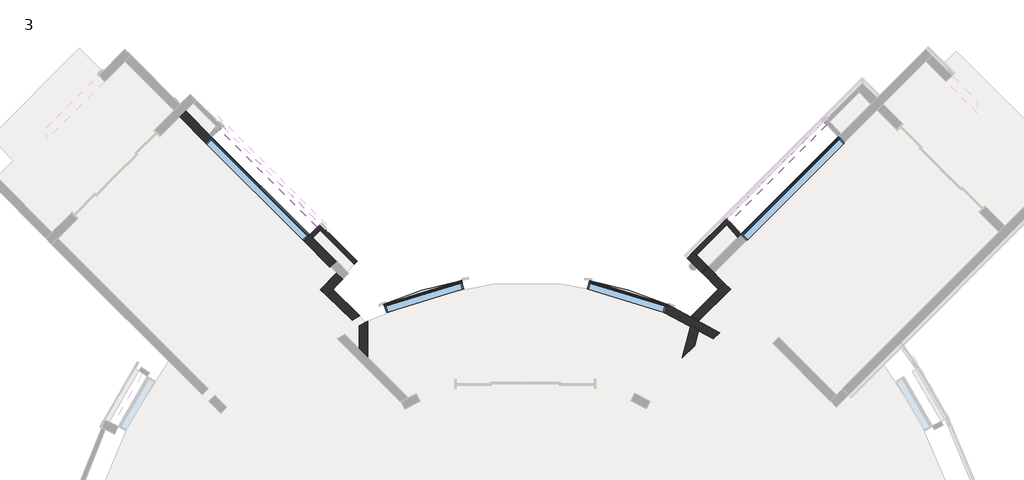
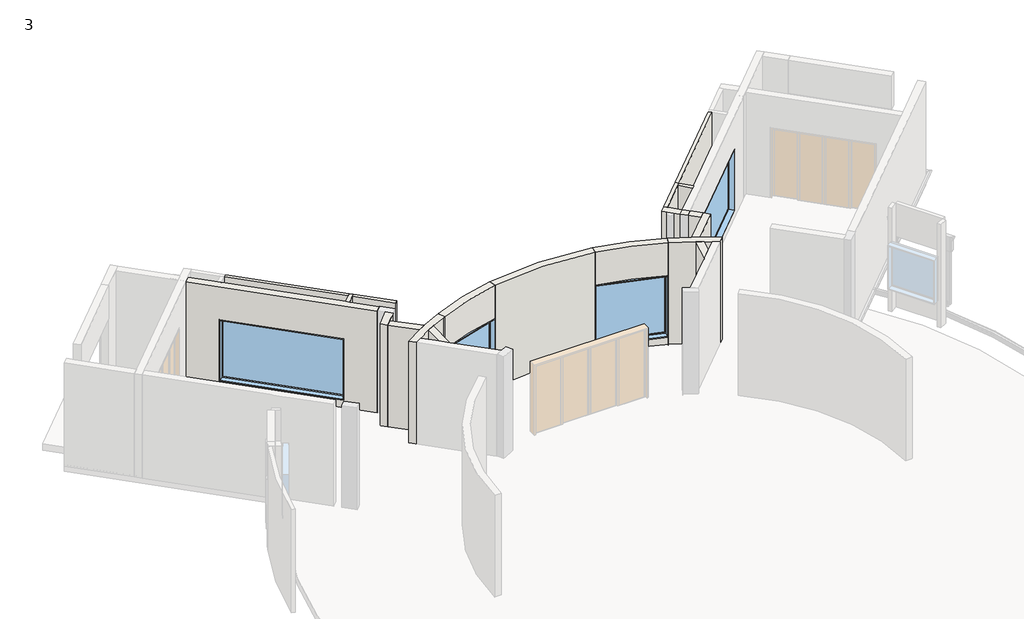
# One storey, part 4 of 12: 19 walls, 4 windows.
"""IFC4 building model written with IfcOpenShell, lengths in millimetres."""

from ifc_helpers import new_model, si_unit, point, frame, frame_2d, origin, place, context, project, spatial, polyline, circle_curve, trimmed, segment, composite_curve, outline, extrude, faceted_brep, transform, mapped, element, save
from ifc_brep_helpers import plane_surface, cylinder_surface, revolved_surface, advanced_brep
from components import fixed_w5_01558c50, fixed_w6f_92124ed6, fixed_w6f_ce856e14

model = new_model("IFC4")

# Units and contexts
model_context = context("Model", 3, world=origin())
ifc_project = project(units=[si_unit("LENGTHUNIT", "METRE", prefix="MILLI")], contexts=[model_context])

# Site, building, storey
site = spatial("IfcSite", under=ifc_project)
building = spatial("IfcBuilding", under=site)
storey = spatial("IfcBuildingStorey", under=building, Name="3", Elevation=3581.4)

# Walls
placement = place(None, origin())
element("IfcWall", 1, ObjectType="115mm BK WALL", at=placement, inside=storey, context=model_context, shape_type="Brep", body=[
    faceted_brep([(-14022.3832452, 10884.9101486, 3581.4), (-13822.1309132, 11085.1624805, 3581.4), (-13741.3086082, 11165.9847856, 3581.4), (-13741.3086082, 11165.9847856, 3733.8), (-13741.3086082, 11165.9847856, 3854.45), (-13741.3086082, 11165.9847856, 6019.8), (-13742.2943938, 11164.999, 6019.8), (-13742.2943938, 11164.999, 6515.1), (-13741.3086082, 11165.9847856, 6515.1), (-13741.3086082, 11165.9847856, 7162.8), (-13822.1309132, 11085.1624805, 7162.8), (-14022.3832452, 10884.9101486, 7162.8), (-13822.1309132, 11246.8070907, 3581.4), (-14103.2055503, 10965.7324537, 3581.4), (-14103.2055503, 10965.7324537, 3886.2), (-14103.2055503, 10965.7324537, 6019.8), (-14103.2055503, 10965.7324537, 7162.8), (-13903.939004, 11164.999, 7162.8), (-13823.1166989, 11245.8213051, 7162.8), (-13822.1309132, 11246.8070907, 7162.8), (-13822.1309132, 11246.8070907, 6515.1), (-13823.1166989, 11245.8213051, 6515.1), (-13823.1166989, 11245.8213051, 6019.8), (-13822.1309132, 11246.8070907, 6019.8), (-13822.1309132, 11246.8070907, 3854.45), (-13822.1309132, 11246.8070907, 3733.8)], [[[0, 1, 2, 3, 4, 5, 6, 7, 8, 9, 10, 11]], [[12, 13, 14, 15, 16, 17, 18, 19, 20, 21, 22, 23, 24, 25]], [[2, 1, 0, 13, 12]], [[11, 10, 9, 19, 18, 17, 16]], [[2, 12, 25, 24, 23, 5, 4, 3]], [[19, 9, 8, 20]], [[0, 11, 16, 15, 14, 13]], [[22, 6, 5, 23]], [[6, 22, 21, 7]], [[7, 21, 20, 8]]]),
])
element("IfcWall", 2, ObjectType="115mm BK WALL", at=placement, inside=storey, context=model_context, shape_type="AdvancedBrep", body=[
    advanced_brep(
    [(-13822.1309132, 11085.1624805, 3581.4), (-12917.0265845, 10180.0581518, 3581.4), (-12917.0265845, 10180.0581518, 7162.8), (-13822.1309132, 11085.1624805, 7162.8), (-12836.2042794, 10260.8804569, 3581.4), (-13741.3086082, 11165.9847856, 3581.4), (-13741.3086082, 11165.9847856, 3733.8), (-13741.3086082, 11165.9847856, 3835.4), (-13741.3086082, 11165.9847856, 3854.45), (-13741.3086082, 11165.9847856, 6019.8), (-13677.4610296, 11102.1372071, 6019.8), (-13635.5302821, 11060.2064596, 6019.8), (-13635.5302821, 11060.2064596, 6064.25), (-13626.550026, 11051.2262034, 6064.25), (-13626.550026, 11051.2262034, 6419.85), (-13615.5850225, 11040.2611999, 6419.85), (-13615.5850225, 11040.2611999, 6438.9), (-13615.5850225, 11040.2611999, 6489.7), (-13602.1146383, 11026.7908158, 6489.7), (-13602.1146383, 11026.7908158, 6515.1), (-13677.4610296, 11102.1372071, 6515.1), (-13741.3086082, 11165.9847856, 6515.1), (-13741.3086082, 11165.9847856, 7162.8), (-12836.2042794, 10260.8804569, 7162.8), (-12836.2042794, 10260.8804569, 3854.45), (-12836.2042794, 10260.8804569, 3733.8), (-13742.2943938, 11164.999, 6515.1), (-13742.2943938, 11164.999, 6019.8), (-13679.432601, 11102.1372071, 6019.8), (-13679.432601, 11102.1372071, 6515.1), (-13603.1004239, 11025.8050301, 6515.1), (-13603.1004239, 11025.8050301, 6489.7), (-13616.5708081, 11039.2754143, 6489.7), (-13616.5708081, 11039.2754143, 6438.9), (-13616.5708081, 11039.2754143, 6419.85), (-13627.5358116, 11050.2404178, 6419.85), (-13627.5358116, 11050.2404178, 6064.25), (-13636.5160677, 11059.2206739, 6064.25), (-13636.5160677, 11059.2206739, 6019.8)],
    [
        (0, 1),
        (1, 2),
        (2, 3),
        (3, 0),
        (4, 5),
        (5, 6),
        (6, 7),
        (7, 8),
        (8, 9),
        (9, 10),
        (10, 11),
        (11, 12),
        (12, 13),
        (13, 14),
        (14, 15),
        (15, 16),
        (16, 17, circle_curve(frame((-13624.3729039, 11049.0490814, 6464.3), z_axis=(-0.7071067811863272, -0.7071067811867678, 0.0), x_axis=(0.7071067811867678, -0.7071067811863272, 0.0)), 28.2774419)),
        (17, 18),
        (18, 19),
        (19, 20),
        (20, 21),
        (21, 22),
        (22, 23),
        (23, 24),
        (24, 25),
        (25, 4),
        (0, 5),
        (4, 1),
        (23, 2),
        (22, 3),
        (21, 26),
        (26, 27),
        (27, 9),
        (28, 10),
        (27, 28),
        (29, 28),
        (26, 29),
        (20, 29),
        (29, 30),
        (30, 31),
        (31, 32),
        (32, 33, circle_curve(frame((-13625.3586896, 11048.0632958, 6464.3), z_axis=(0.7071067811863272, 0.7071067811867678, 0.0), x_axis=(0.7071067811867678, -0.7071067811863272, 0.0)), 28.2774419)),
        (33, 34),
        (34, 35),
        (35, 36),
        (36, 37),
        (37, 38),
        (38, 28),
        (30, 19),
        (18, 31),
        (17, 32),
        (16, 33),
        (15, 34),
        (14, 35),
        (13, 36),
        (12, 37),
        (11, 38),
    ],
    [
        plane_surface(frame((-13862.5420658, 11125.5736331, 3581.4), z_axis=(-0.7071067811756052, -0.7071067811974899, 0.0), x_axis=(0.7071067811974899, -0.7071067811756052, 0.0))),
        plane_surface(frame((-13781.7197607, 11206.3959382, 3581.4), z_axis=(0.7071067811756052, 0.7071067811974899, 0.0), x_axis=(-0.7071067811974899, 0.7071067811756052, 0.0))),
        plane_surface(frame((-13862.5420658, 11125.5736331, 3581.4), z_axis=(0.0, 0.0, -1.0000000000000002), x_axis=(0.7071067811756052, 0.7071067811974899, 0.0))),
        plane_surface(frame((-12917.0265845, 10180.0581518, 3581.4), z_axis=(0.7071067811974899, -0.7071067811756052, 0.0), x_axis=(0.7071067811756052, 0.7071067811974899, 0.0))),
        plane_surface(frame((-12917.0265845, 10180.0581518, 7162.8), z_axis=(0.0, 0.0, 1.0000000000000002), x_axis=(0.7071067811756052, 0.7071067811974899, 0.0))),
        plane_surface(frame((-14022.3832452, 10884.9101486, 3581.4), z_axis=(-0.7071067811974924, 0.7071067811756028, 0.0), x_axis=(0.7071067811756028, 0.7071067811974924, 0.0))),
        plane_surface(frame((-16535.1540475, 14043.6917201, 6019.8), z_axis=(0.0, 0.0, 1.0), x_axis=(0.7071067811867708, -0.7071067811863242, 0.0))),
        plane_surface(frame((-16535.1540475, 13957.8586536, 6019.8), z_axis=(0.707106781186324, 0.7071067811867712, 0.0), x_axis=(0.7071067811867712, -0.707106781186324, 0.0))),
        plane_surface(frame((-16535.1540475, 13957.8586536, 6515.1), z_axis=(0.0, 0.0, -1.0000000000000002), x_axis=(0.7071067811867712, -0.707106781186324, 0.0))),
        plane_surface(frame((-16449.8416143, 13872.5462205, 6019.8), z_axis=(0.7071067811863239, 0.7071067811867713, 0.0), x_axis=(-0.7071067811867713, 0.7071067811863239, 0.0))),
        plane_surface(frame((-13526.7682469, 11102.1372071, 6515.1), z_axis=(-0.7071067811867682, 0.7071067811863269, 0.0), x_axis=(-0.7071067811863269, -0.7071067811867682, 0.0))),
        plane_surface(frame((-13526.7682469, 11102.1372071, 6489.7), z_axis=(0.0, 0.0, 1.0), x_axis=(-0.7071067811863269, -0.7071067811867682, 0.0))),
        revolved_surface(polyline([(-13604.377733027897, 11029.053910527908, 6464.3), (-13605.3635186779, 11028.068124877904, 6464.3)]), (-13625.3586896, 11048.0632958, 6464.3), (0.7071067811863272, 0.7071067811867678, 0.0)),
        plane_surface(frame((-13553.7090153, 11102.1372071, 6438.9), z_axis=(-0.707106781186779, 0.7071067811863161, 0.0), x_axis=(-0.7071067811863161, -0.707106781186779, 0.0))),
        plane_surface(frame((-13553.7090153, 11102.1372071, 6419.85), z_axis=(0.0, 0.0, 1.0), x_axis=(-0.7071067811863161, -0.707106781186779, 0.0))),
        plane_surface(frame((-13575.6390223, 11102.1372071, 6419.85), z_axis=(-0.7071067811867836, 0.7071067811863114, 0.0), x_axis=(-0.7071067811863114, -0.7071067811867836, 0.0))),
        plane_surface(frame((-13575.6390223, 11102.1372071, 6064.25), z_axis=(0.0, 0.0, 1.0), x_axis=(-0.7071067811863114, -0.7071067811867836, 0.0))),
        plane_surface(frame((-13593.5995345, 11102.1372071, 6064.25), z_axis=(-0.7071067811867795, 0.7071067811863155, 0.0), x_axis=(-0.7071067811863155, -0.7071067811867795, 0.0))),
        plane_surface(frame((-13593.5995345, 11102.1372071, 6019.8), z_axis=(0.0, 0.0, 1.0), x_axis=(-0.7071067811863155, -0.7071067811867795, 0.0))),
        plane_surface(frame((-13679.432601, 11102.1372071, 6515.1), z_axis=(0.0, 0.0, -1.0), x_axis=(-0.7071067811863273, -0.7071067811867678, 0.0))),
    ],
    [
        (0, [[1, 2, 3, 4]]),
        (1, [[5, 6, 7, 8, 9, 10, 11, 12, 13, 14, 15, 16, 17, 18, 19, 20, 21, 22, 23, 24, 25, 26]]),
        (2, [[-1, 27, -5, 28]]),
        (3, [[-2, -28, -26, -25, -24, 29]]),
        (4, [[-3, -29, -23, 30]]),
        (5, [[-27, -4, -30, -22, 31, 32, 33, -9, -8, -7, -6]]),
        (6, [[34, -10, -33, 35]]),
        (7, [[36, -35, -32, 37]]),
        (8, [[38, -37, -31, -21]]),
        (9, [[-36, 39, 40, 41, 42, 43, 44, 45, 46, 47, 48]]),
        (10, [[-40, 49, -19, 50]]),
        (11, [[-41, -50, -18, 51]]),
        (12, [[-42, -51, -17, 52]]),
        (13, [[-43, -52, -16, 53]]),
        (14, [[-44, -53, -15, 54]]),
        (15, [[-45, -54, -14, 55]]),
        (16, [[-46, -55, -13, 56]]),
        (17, [[-47, -56, -12, 57]]),
        (18, [[-48, -57, -11, -34]]),
        (19, [[-39, -38, -20, -49]]),
    ],
),
])
element("IfcWall", 3, ObjectType="115mm BK WALL", at=placement, inside=storey, context=model_context, shape_type="Brep", body=[
    faceted_brep([(-3856.761253, 10426.8778601, 3581.4), (-3055.9444798, 11227.6946332, 3581.4), (-2975.0112586, 11308.6278545, 3581.4), (-2975.0112586, 11308.6278545, 6019.8), (-2975.0112586, 11308.6278545, 7162.8), (-3055.9444798, 11227.6946332, 7162.8), (-3856.761253, 10426.8778601, 7162.8), (-3051.5978461, 11393.6858771, 3581.4), (-3937.5835581, 10507.7001651, 3581.4), (-3937.5835581, 10507.7001651, 3733.8), (-3937.5835581, 10507.7001651, 3886.2), (-3937.5835581, 10507.7001651, 7162.8), (-3051.5978461, 11393.6858771, 7162.8), (-3051.5978461, 11393.6858771, 6515.1), (-3051.5978461, 11393.6858771, 6019.8), (-3051.5978461, 11393.6858771, 3886.2), (-3051.5978461, 11393.6858771, 3733.8)], [[[0, 1, 2, 3, 4, 5, 6]], [[7, 8, 9, 10, 11, 12, 13, 14, 15, 16]], [[2, 1, 0, 8, 7]], [[6, 5, 4, 12, 11]], [[2, 7, 16, 15, 14, 13, 12, 4, 3]], [[0, 6, 11, 10, 9, 8]]]),
])
element("IfcWall", 4, ObjectType="115mm BK WALL", at=placement, inside=storey, context=model_context, shape_type="SweptSolid", body=[
    extrude(outline(polyline([(-2761.9122416, 10901.1387497), (-3055.9444798, 11227.6946332), (-2975.0112586, 11308.6278545), (-2680.9790204, 10982.071971), (-2761.9122416, 10901.1387497)])), frame((0.0, 0.0, 3581.4), z_axis=(0.0, 0.0, 1.0), x_axis=(1.0, 0.0, 0.0)), (0.0, 0.0, 1.0), 3581.4),
])
element("IfcWall", 5, ObjectType="115mm BK WALL", at=placement, inside=storey, context=model_context, shape_type="Brep", body=[
    faceted_brep([(-2975.0112586, 11308.6278545, 6019.8), (-409.305952, 13874.333161, 6019.8), (-409.305952, 13874.333161, 7162.8), (-2975.0112586, 11308.6278545, 7162.8), (-490.1282571, 13955.1554661, 6019.8), (-3051.5978461, 11393.6858771, 6019.8), (-3051.5978461, 11393.6858771, 6515.1), (-3051.5978461, 11393.6858771, 7162.8), (-490.1282571, 13955.1554661, 7162.8), (-490.1282571, 13955.1554661, 6515.1)], [[[0, 1, 2, 3]], [[4, 5, 6, 7, 8, 9]], [[1, 0, 5, 4]], [[3, 2, 8, 7]], [[2, 1, 4, 9, 8]], [[0, 3, 7, 6, 5]]]),
])
element("IfcWall", 6, ObjectType="115mm BK WALL", at=placement, inside=storey, context=model_context, shape_type="Brep", body=[
    faceted_brep([(-16490.2527668, 13751.3127628, 6019.8), (-13903.939004, 11164.999, 6019.8), (-13903.939004, 11164.999, 7162.8), (-16490.2527668, 13751.3127628, 7162.8), (-13823.1166989, 11245.8213051, 6019.8), (-16409.4304618, 13832.1350679, 6019.8), (-16409.4304618, 13832.1350679, 6515.1), (-16409.4304618, 13832.1350679, 7162.8), (-13823.1166989, 11245.8213051, 7162.8), (-13823.1166989, 11245.8213051, 6515.1)], [[[0, 1, 2, 3]], [[4, 5, 6, 7, 8, 9]], [[1, 0, 5, 4]], [[3, 2, 8, 7]], [[0, 3, 7, 6, 5]], [[2, 1, 4, 9, 8]]]),
])
element("IfcWall", 7, ObjectType="230mm BK WALL", at=placement, inside=storey, context=model_context, shape_type="Brep", body=[
    faceted_brep([(-17549.0284891, 14088.2661722, 3581.4), (-13564.0170724, 10103.2547555, 3581.4), (-13564.0170724, 10103.2547555, 7162.8), (-17549.0284891, 14088.2661722, 7162.8), (-14264.8501604, 10804.0878435, 6019.8), (-14264.8501604, 10804.0878435, 3886.2), (-16851.1639233, 13390.4016064, 3886.2), (-16851.1639233, 13390.4016064, 6019.8), (-17387.383879, 14249.9107824, 3581.4), (-17387.383879, 14249.9107824, 7162.8), (-16770.3416182, 13632.8685217, 7162.8), (-16689.5193131, 13552.0462166, 7162.8), (-14103.2055503, 10965.7324537, 7162.8), (-14022.3832452, 10884.9101486, 7162.8), (-13402.3724623, 10264.8993657, 7162.8), (-13402.3724623, 10264.8993657, 3581.4), (-14022.3832452, 10884.9101486, 3581.4), (-14103.2055503, 10965.7324537, 3581.4), (-16689.5193131, 13552.0462166, 3581.4), (-16770.3416182, 13632.8685217, 3581.4), (-14103.2055503, 10965.7324537, 6019.8), (-16689.5193131, 13552.0462166, 6019.8), (-16689.5193131, 13552.0462166, 3886.2), (-14103.2055503, 10965.7324537, 3886.2)], [[[0, 1, 2, 3], [4, 5, 6, 7]], [[8, 9, 10, 11, 12, 13, 14, 15, 16, 17, 18, 19], [20, 21, 22, 23]], [[1, 0, 8, 19, 18, 17, 16, 15]], [[2, 1, 15, 14]], [[3, 2, 14, 13, 12, 11, 10, 9]], [[0, 3, 9, 8]], [[5, 4, 20, 23]], [[6, 5, 23, 22]], [[7, 6, 22, 21]], [[4, 7, 21, 20]]]),
])
element("IfcWall", 8, ObjectType="230mm BK WALL", at=placement, inside=storey, context=model_context, shape_type="Brep", body=[
    faceted_brep([(-13393.8750876, 9950.8045026, 3581.4), (-13817.3791461, 9512.253212, 3581.4), (-13817.3791461, 9512.253212, 7162.8), (-13393.8750876, 9950.8045026, 7162.8), (-13229.4340092, 9792.0055991, 3581.4), (-13229.4340092, 9792.0055991, 7162.8), (-13494.1391643, 9517.8953869, 7162.8), (-13652.9380677, 9353.4543085, 7162.8), (-13652.9380677, 9353.4543085, 3581.4), (-13494.1391643, 9517.8953869, 3581.4)], [[[0, 1, 2, 3]], [[4, 5, 6, 7, 8, 9]], [[1, 0, 4, 9, 8]], [[3, 2, 7, 6, 5]], [[0, 3, 5, 4]], [[2, 1, 8, 7]]]),
])
element("IfcWall", 9, ObjectType="230mm BK WALL", at=placement, inside=storey, context=model_context, shape_type="SweptSolid", body=[
    extrude(outline(composite_curve([segment(polyline([(-12980.7350284, 8704.315379), (-13652.9380677, 9353.4543085), (-13494.1391643, 9517.8953869), (-12770.4168161, 8819.0048392)]), True, "CONTINUOUS"), segment(trimmed(circle_curve(frame_2d((-8388.7443851, 533.6818239)), 9372.6), [point((-12770.4168161, 8819.0048392))], [point((-12980.7350284, 8704.315379))], True, "CARTESIAN"), True, "CONTINUOUS")], self_intersect=False)), frame((0.0, 0.0, 3581.4), z_axis=(0.0, 0.0, 1.0), x_axis=(1.0, 0.0, 0.0)), (0.0, 0.0, 1.0), 3581.4),
])
element("IfcWall", 10, ObjectType="230mm BK WALL", at=placement, inside=storey, context=model_context, shape_type="AdvancedBrep", body=[
    advanced_brep(
    [(-3781.7769916, 8695.8801917, 3581.4), (-2955.0592679, 9522.5979155, 3581.4), (-2955.0592679, 9522.5979155, 7162.8), (-3781.7769916, 8695.8801917, 7162.8), (-3990.6481208, 8810.2982829, 3581.4), (-3990.6481208, 8810.2982829, 7162.8), (-3278.3484883, 9522.5979155, 7162.8), (-3116.7038781, 9684.2425257, 7162.8), (-3116.7038781, 9684.2425257, 3581.4), (-3278.3484883, 9522.5979155, 3581.4)],
    [
        (0, 1),
        (1, 2),
        (2, 3),
        (3, 0),
        (4, 5),
        (5, 6),
        (6, 7),
        (7, 8),
        (8, 9),
        (9, 4),
        (0, 4, circle_curve(frame((-8388.7443851, 533.6818239, 3581.4), z_axis=(0.0, 0.0, 1.0), x_axis=(1.0, 0.0, 0.0)), 9372.6)),
        (8, 1),
        (2, 7),
        (5, 3, circle_curve(frame((-8388.7443851, 533.6818239, 7162.8), z_axis=(0.0, 0.0, -1.0), x_axis=(1.0, 0.0, 0.0)), 9372.6)),
    ],
    [
        plane_surface(frame((-3894.8662205, 8582.7909629, 3581.4), z_axis=(0.7071067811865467, -0.7071067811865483, 0.0), x_axis=(0.7071067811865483, 0.7071067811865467, 0.0))),
        plane_surface(frame((-4056.5108306, 8744.4355731, 3581.4), z_axis=(-0.7071067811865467, 0.7071067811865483, 0.0), x_axis=(-0.7071067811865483, -0.7071067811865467, 0.0))),
        plane_surface(frame((-3889.0779432, 8588.5792402, 3581.4), z_axis=(0.0, 0.0, -1.0), x_axis=(-0.7071067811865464, 0.7071067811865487, 0.0))),
        plane_surface(frame((-3035.881573, 9441.7756104, 7162.8), z_axis=(0.0, 0.0, 1.0), x_axis=(-0.7071067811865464, 0.7071067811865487, 0.0))),
        plane_surface(frame((-3035.881573, 9603.4202206, 3581.4), z_axis=(0.7071067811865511, 0.7071067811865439, 0.0), x_axis=(-0.7071067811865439, 0.7071067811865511, 0.0))),
        revolved_surface(polyline([(983.8556148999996, 533.6818239, 7162.8), (983.8556148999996, 533.6818239, 3581.4)]), (-8388.7443851, 533.6818239, 3581.4), (0.0, 0.0, 1.0)),
    ],
    [
        (0, [[1, 2, 3, 4]]),
        (1, [[5, 6, 7, 8, 9, 10]]),
        (2, [[-1, 11, -10, -9, 12]]),
        (3, [[-3, 13, -7, -6, 14]]),
        (4, [[-2, -12, -8, -13]]),
        (5, [[-4, -14, -5, -11]]),
    ],
),
])
element("IfcWall", 11, ObjectType="230mm BK WALL", at=placement, inside=storey, context=model_context, shape_type="Brep", body=[
    faceted_brep([(-3116.7038781, 9684.2425257, 3581.4), (-3386.1115617, 9953.6502093, 3581.4), (-3547.7561719, 10115.2948195, 3581.4), (-3547.7561719, 10115.2948195, 7162.8), (-3386.1115617, 9953.6502093, 7162.8), (-3116.7038781, 9684.2425257, 7162.8), (-3709.4007821, 9953.6502093, 3581.4), (-3278.3484883, 9522.5979155, 3581.4), (-3278.3484883, 9522.5979155, 7162.8), (-3709.4007821, 9953.6502093, 7162.8)], [[[0, 1, 2, 3, 4, 5]], [[6, 7, 8, 9]], [[2, 1, 0, 7, 6]], [[5, 4, 3, 9, 8]], [[3, 2, 6, 9]], [[0, 5, 8, 7]]]),
])
element("IfcWall", 12, ObjectType="230mm BK WALL", at=placement, inside=storey, context=model_context, shape_type="Brep", body=[
    faceted_brep([(-4099.2281682, 10346.055555, 3581.4), (-3726.5475392, 9973.3749259, 3581.4), (-3726.5475392, 9973.3749259, 7162.8), (-4099.2281682, 10346.055555, 7162.8), (-4099.2281682, 10346.055555, 3886.2), (-4099.2281682, 10346.055555, 3733.8), (-3564.902929, 10135.0195361, 3581.4), (-3856.761253, 10426.8778601, 3581.4), (-3937.5835581, 10507.7001651, 3581.4), (-3937.5835581, 10507.7001651, 3733.8), (-3937.5835581, 10507.7001651, 3886.2), (-3937.5835581, 10507.7001651, 7162.8), (-3856.761253, 10426.8778601, 7162.8), (-3564.902929, 10135.0195361, 7162.8)], [[[0, 1, 2, 3, 4, 5]], [[6, 7, 8, 9, 10, 11, 12, 13]], [[1, 0, 8, 7, 6]], [[2, 1, 6, 13]], [[3, 2, 13, 12, 11]], [[3, 11, 10, 9, 8, 0, 5, 4]]]),
])
element("IfcWall", 13, ObjectType="230mm BK WALL", at=placement, inside=storey, context=model_context, shape_type="AdvancedBrep", body=[
    advanced_brep(
    [(-12138.4046585, 9123.5408795, 7162.8), (-12770.4116065, 8819.0074483, 7162.8), (-12980.7365655, 8704.31451, 7162.8), (-13531.3316708, 8369.4604558, 7162.8), (-13366.0780414, 8204.3327529, 7162.8), (-13167.8135108, 8329.4007255, 7162.8), (-12789.9374664, 8548.8071426, 7162.8), (-12561.3387804, 8670.1546903, 7162.8), (-12046.9495299, 8914.032122, 7162.8), (-13531.3316708, 8369.4604558, 3581.4), (-12980.7365655, 8704.31451, 3581.4), (-12770.4116065, 8819.0074483, 3581.4), (-12138.4046585, 9123.5408795, 3581.4), (-12046.9495299, 8914.032122, 3581.4), (-12561.3387804, 8670.1546903, 3581.4), (-12789.9374664, 8548.8071426, 3581.4), (-13167.8135108, 8329.4007255, 3581.4), (-13366.0780414, 8204.3327529, 3581.4), (-12138.4046585, 9123.5408795, 6540.5), (-12138.4046585, 9123.5408795, 6045.2), (-12138.4046585, 9123.5408795, 3854.45), (-12138.4046585, 9123.5408795, 3733.8), (-13531.3316708, 8369.4604558, 3733.8), (-13531.3316708, 8369.4604558, 3854.45), (-12046.9495299, 8914.032122, 3886.2), (-12066.6096564, 8905.4225656, 3886.2), (-12066.6096564, 8905.4225656, 6019.8), (-12046.9495299, 8914.032122, 6019.8), (-12121.5460838, 9084.9206393, 6019.8), (-12121.5460838, 9084.9206393, 3886.2)],
    [
        (0, 1, circle_curve(frame((-8388.7443851, 533.6818239, 7162.8), z_axis=(0.0, 0.0, 1.0), x_axis=(1.0, 0.0, 0.0)), 9372.6)),
        (1, 2, circle_curve(frame((-8388.7443851, 533.6818239, 7162.8), z_axis=(0.0, 0.0, 1.0), x_axis=(1.0, 0.0, 0.0)), 9372.599871)),
        (2, 3, circle_curve(frame((-8388.7443851, 533.6818239, 7162.8), z_axis=(0.0, 0.0, 1.0), x_axis=(1.0, 0.0, 0.0)), 9372.5999955)),
        (3, 4),
        (4, 5, circle_curve(frame((-8388.7443851, 533.6818239, 7162.8), z_axis=(0.0, 0.0, -1.0), x_axis=(1.0, 0.0, 0.0)), 9144.0)),
        (5, 6, circle_curve(frame((-8388.7443851, 533.6818239, 7162.8), z_axis=(0.0, 0.0, -1.0), x_axis=(1.0, 0.0, 0.0)), 9143.9999399)),
        (6, 7, circle_curve(frame((-8388.7443851, 533.6818239, 7162.8), z_axis=(0.0, 0.0, -1.0), x_axis=(1.0, 0.0, 0.0)), 9143.9999132)),
        (7, 8, circle_curve(frame((-8388.7443851, 533.6818239, 7162.8), z_axis=(0.0, 0.0, -1.0), x_axis=(1.0, 0.0, 0.0)), 9143.9999285)),
        (8, 0),
        (9, 10, circle_curve(frame((-8388.7443851, 533.6818239, 3581.4), z_axis=(0.0, 0.0, -1.0), x_axis=(1.0, 0.0, 0.0)), 9372.6)),
        (10, 11, circle_curve(frame((-8388.7443851, 533.6818239, 3581.4), z_axis=(0.0, 0.0, -1.0), x_axis=(1.0, 0.0, 0.0)), 9372.5999955)),
        (11, 12, circle_curve(frame((-8388.7443851, 533.6818239, 3581.4), z_axis=(0.0, 0.0, -1.0), x_axis=(1.0, 0.0, 0.0)), 9372.599871)),
        (12, 13),
        (13, 14, circle_curve(frame((-8388.7443851, 533.6818239, 3581.4), z_axis=(0.0, 0.0, 1.0), x_axis=(1.0, 0.0, 0.0)), 9144.0)),
        (14, 15, circle_curve(frame((-8388.7443851, 533.6818239, 3581.4), z_axis=(0.0, 0.0, 1.0), x_axis=(1.0, 0.0, 0.0)), 9143.9999285)),
        (15, 16, circle_curve(frame((-8388.7443851, 533.6818239, 3581.4), z_axis=(0.0, 0.0, 1.0), x_axis=(1.0, 0.0, 0.0)), 9143.9999132)),
        (16, 17, circle_curve(frame((-8388.7443851, 533.6818239, 3581.4), z_axis=(0.0, 0.0, 1.0), x_axis=(1.0, 0.0, 0.0)), 9143.9999399)),
        (17, 9),
        (0, 18),
        (18, 19),
        (19, 20),
        (20, 21),
        (21, 12),
        (9, 22),
        (22, 23),
        (23, 3),
        (4, 17),
        (13, 24),
        (24, 25, circle_curve(frame((-8388.7443851, 533.6818239, 3886.2), z_axis=(0.0, 0.0, 1.0), x_axis=(1.0, 0.0, 0.0)), 9144.0)),
        (25, 26),
        (26, 27, circle_curve(frame((-8388.7443851, 533.6818239, 6019.8), z_axis=(0.0, 0.0, -1.0), x_axis=(1.0, 0.0, 0.0)), 9144.0)),
        (27, 8),
        (27, 28),
        (28, 29),
        (29, 24),
        (29, 25),
        (28, 26),
    ],
    [
        plane_surface(frame((983.8556149, 533.6818239, 7162.8), z_axis=(0.0, 0.0, 1.0), x_axis=(0.0, 1.0, 0.0))),
        plane_surface(frame((983.8556149, 533.6818239, 3581.4), z_axis=(0.0, 0.0, -1.0), x_axis=(0.0, -1.0, 0.0))),
        cylinder_surface(frame((-8388.7443851, 533.6818239, 3581.4), z_axis=(0.0, 0.0, 1.0), x_axis=(1.0, 0.0, 0.0)), 9372.6),
        revolved_surface(polyline([(755.2556148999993, 533.6818239, 3581.4), (755.2556148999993, 533.6818239, 7162.8)]), (-8388.7443851, 533.6818239, 3581.4), (0.0, 0.0, -1.0)),
        plane_surface(frame((-12046.9495299, 8914.032122, 7162.8), z_axis=(0.9164862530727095, 0.40006617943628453, 0.0), x_axis=(0.0, 0.0, -1.0))),
        plane_surface(frame((-13224.7079982, 8063.0704363, 3581.4), z_axis=(-0.706837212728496, -0.7073762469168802, 0.0), x_axis=(0.7073762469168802, -0.706837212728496, 0.0))),
        plane_surface(frame((-10472.431131, 10987.109331, 3886.2), z_axis=(0.0, 0.0, 1.0), x_axis=(0.29265600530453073, -0.9562177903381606, 0.0))),
        plane_surface(frame((-12512.6174085, 10362.6984781, 3886.2), z_axis=(0.9562177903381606, 0.2926560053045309, 0.0), x_axis=(0.2926560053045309, -0.9562177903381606, 0.0))),
        plane_surface(frame((-12512.6174085, 10362.6984781, 6019.8), z_axis=(0.0, 0.0, -1.0), x_axis=(0.2926560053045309, -0.9562177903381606, 0.0))),
    ],
    [
        (0, [[1, 2, 3, 4, 5, 6, 7, 8, 9]]),
        (1, [[10, 11, 12, 13, 14, 15, 16, 17, 18]]),
        (2, [[-3, -2, -1, 19, 20, 21, 22, 23, -12, -11, -10, 24, 25, 26]]),
        (3, [[-8, -7, -6, -5, 27, -17, -16, -15, -14, 28, 29, 30, 31, 32]]),
        (4, [[-9, -32, 33, 34, 35, -28, -13, -23, -22, -21, -20, -19]]),
        (5, [[-4, -26, -25, -24, -18, -27]]),
        (6, [[36, -29, -35]]),
        (7, [[-36, -34, 37, -30]]),
        (8, [[-37, -33, -31]]),
    ],
),
])
element("IfcWall", 14, ObjectType="230mm BK WALL", at=placement, inside=storey, context=model_context, shape_type="SweptSolid", body=[
    extrude(outline(composite_curve([segment(polyline([(-4232.6615049, 7704.5770529), (-4004.0317749, 8557.8348213)]), True, "CONTINUOUS"), segment(trimmed(circle_curve(frame_2d((-8388.7443851, 533.6818239)), 9144.0), [point((-4004.0317749, 8557.8348213))], [point((-3798.4050702, 8442.0015553))], False, "CARTESIAN"), True, "CONTINUOUS"), segment(polyline([(-3798.4050702, 8442.0015553), (-3909.3722846, 8027.8662732), (-4232.6615049, 7704.5770529)]), True, "CONTINUOUS")], self_intersect=False)), frame((0.0, 0.0, 3581.4), z_axis=(0.0, 0.0, 1.0), x_axis=(1.0, 0.0, 0.0)), (0.0, 0.0, 1.0), 3581.4),
])
element("IfcWall", 15, ObjectType="230mm BK WALL", at=placement, inside=storey, context=model_context, shape_type="SweptSolid", body=[
    extrude(outline(composite_curve([segment(polyline([(-12789.9399757, 7951.7997829), (-12789.9399757, 8548.8058637)]), True, "CONTINUOUS"), segment(trimmed(circle_curve(frame_2d((-8388.7443851, 533.6818239)), 9144.0), [point((-12789.9399757, 8548.8058637))], [point((-12561.3399757, 8670.1541576))], False, "CARTESIAN"), True, "CONTINUOUS"), segment(polyline([(-12561.3399757, 8670.1541576), (-12561.3399757, 7723.3739805), (-12789.9399757, 7951.7997829)]), True, "CONTINUOUS")], self_intersect=False)), frame((0.0, 0.0, 3581.4), z_axis=(0.0, 0.0, 1.0), x_axis=(1.0, 0.0, 0.0)), (0.0, 0.0, 1.0), 3581.4),
])
element("IfcWall", 16, ObjectType="230mm BK WALL", at=placement, inside=storey, context=model_context, shape_type="AdvancedBrep", body=[
    advanced_brep(
    [(-10073.4973311, 9753.6188232, 7162.8), (-12138.4046585, 9123.5408795, 7162.8), (-12046.9495299, 8914.032122, 7162.8), (-10032.4057958, 9528.742311, 7162.8), (-12138.4046585, 9123.5408795, 3581.4), (-10073.4973311, 9753.6188232, 3581.4), (-10032.4057958, 9528.742311, 3581.4), (-12046.9495299, 8914.032122, 3581.4), (-10073.4973311, 9753.6188232, 6540.5), (-10073.4973311, 9753.6188232, 6045.2), (-10073.4973311, 9753.6188232, 3854.45), (-10073.4973311, 9753.6188232, 3733.8), (-12138.4046585, 9123.5408795, 3733.8), (-12138.4046585, 9123.5408795, 3854.45), (-12138.4046585, 9123.5408795, 6045.2), (-12138.4046585, 9123.5408795, 6540.5), (-10093.7732108, 9749.8907768, 3886.2), (-10093.7732108, 9749.8907768, 6019.8), (-12133.9594883, 9125.4799239, 6019.8), (-12133.9594883, 9125.4799239, 3886.2), (-12046.9495299, 8914.032122, 3886.2), (-12121.5460838, 9084.9206393, 3886.2), (-12121.5460838, 9084.9206393, 6019.8), (-12046.9495299, 8914.032122, 6019.8), (-10032.4057958, 9528.742311, 6019.8), (-10032.4057958, 9528.742311, 3886.2), (-10041.7645623, 9579.9588632, 6019.8), (-10041.7645623, 9579.9588632, 3886.2)],
    [
        (0, 1, circle_curve(frame((-8388.7443851, 533.6818239, 7162.8), z_axis=(0.0, 0.0, 1.0), x_axis=(1.0, 0.0, 0.0)), 9372.6)),
        (1, 2),
        (2, 3, circle_curve(frame((-8388.7443851, 533.6818239, 7162.8), z_axis=(0.0, 0.0, -1.0), x_axis=(1.0, 0.0, 0.0)), 9144.0)),
        (3, 0),
        (4, 5, circle_curve(frame((-8388.7443851, 533.6818239, 3581.4), z_axis=(0.0, 0.0, -1.0), x_axis=(1.0, 0.0, 0.0)), 9372.6)),
        (5, 6),
        (6, 7, circle_curve(frame((-8388.7443851, 533.6818239, 3581.4), z_axis=(0.0, 0.0, 1.0), x_axis=(1.0, 0.0, 0.0)), 9144.0)),
        (7, 4),
        (0, 8),
        (8, 9),
        (9, 10),
        (10, 11),
        (11, 5),
        (4, 12),
        (12, 13),
        (13, 14),
        (14, 15),
        (15, 1),
        (16, 17),
        (17, 18, circle_curve(frame((-8388.7443851, 533.6818239, 6019.8), z_axis=(0.0, 0.0, 1.0), x_axis=(1.0, 0.0, 0.0)), 9372.6)),
        (18, 19),
        (19, 16, circle_curve(frame((-8388.7443851, 533.6818239, 3886.2), z_axis=(0.0, 0.0, -1.0), x_axis=(1.0, 0.0, 0.0)), 9372.6)),
        (7, 20),
        (20, 21),
        (21, 22),
        (22, 23),
        (23, 2),
        (23, 24, circle_curve(frame((-8388.7443851, 533.6818239, 6019.8), z_axis=(0.0, 0.0, -1.0), x_axis=(1.0, 0.0, 0.0)), 9144.0)),
        (24, 3),
        (6, 25),
        (25, 20, circle_curve(frame((-8388.7443851, 533.6818239, 3886.2), z_axis=(0.0, 0.0, 1.0), x_axis=(1.0, 0.0, 0.0)), 9144.0)),
        (24, 26),
        (26, 27),
        (27, 25),
        (26, 17),
        (16, 27),
        (19, 21),
        (18, 22),
    ],
    [
        plane_surface(frame((983.8556149, 533.6818239, 7162.8), z_axis=(0.0, 0.0, 1.0), x_axis=(0.0, 1.0, 0.0))),
        plane_surface(frame((983.8556149, 533.6818239, 3581.4), z_axis=(0.0, 0.0, -1.0), x_axis=(0.0, -1.0, 0.0))),
        cylinder_surface(frame((-8388.7443851, 533.6818239, 3581.4), z_axis=(0.0, 0.0, 1.0), x_axis=(1.0, 0.0, 0.0)), 9372.6),
        plane_surface(frame((-12138.4046585, 9123.5408795, 7162.8), z_axis=(-0.9164862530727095, -0.40006617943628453, 0.0), x_axis=(0.0, 0.0, -1.0))),
        revolved_surface(polyline([(755.2556148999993, 533.6818239, 6019.8), (755.2556148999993, 533.6818239, 7162.8)]), (-8388.7443851, 533.6818239, 3581.4), (0.0, 0.0, -1.0)),
        revolved_surface(polyline([(755.2556148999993, 533.6818239, 3581.4), (755.2556148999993, 533.6818239, 3886.2)]), (-8388.7443851, 533.6818239, 3581.4), (0.0, 0.0, -1.0)),
        plane_surface(frame((-10032.4057958, 9528.742311, 7162.8), z_axis=(0.9837117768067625, 0.17975299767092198, 0.0), x_axis=(0.0, 0.0, -1.0))),
        plane_surface(frame((-10472.431131, 10987.109331, 6019.8), z_axis=(-0.9562177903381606, -0.2926560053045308, 0.0), x_axis=(0.2926560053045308, -0.9562177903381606, 0.0))),
        plane_surface(frame((-10472.431131, 10987.109331, 3886.2), z_axis=(0.0, 0.0, 1.0), x_axis=(0.29265600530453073, -0.9562177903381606, 0.0))),
        plane_surface(frame((-12512.6174085, 10362.6984781, 3886.2), z_axis=(0.9562177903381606, 0.2926560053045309, 0.0), x_axis=(0.2926560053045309, -0.9562177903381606, 0.0))),
        plane_surface(frame((-12512.6174085, 10362.6984781, 6019.8), z_axis=(0.0, 0.0, -1.0), x_axis=(0.2926560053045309, -0.9562177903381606, 0.0))),
    ],
    [
        (0, [[1, 2, 3, 4]]),
        (1, [[5, 6, 7, 8]]),
        (2, [[-1, 9, 10, 11, 12, 13, -5, 14, 15, 16, 17, 18], [19, 20, 21, 22]]),
        (3, [[-2, -18, -17, -16, -15, -14, -8, 23, 24, 25, 26, 27]]),
        (4, [[-3, -27, 28, 29]]),
        (5, [[-7, 30, 31, -23]]),
        (6, [[-4, -29, 32, 33, 34, -30, -6, -13, -12, -11, -10, -9]]),
        (7, [[35, -19, 36, -33]]),
        (8, [[-36, -22, 37, -24, -31, -34]]),
        (9, [[-37, -21, 38, -25]]),
        (10, [[-35, -32, -28, -26, -38, -20]]),
    ],
),
])
element("IfcWall", 17, ObjectType="230mm BK WALL", at=placement, inside=storey, context=model_context, shape_type="AdvancedBrep", body=[
    advanced_brep(
    [(-6708.9117433, 9754.5165505, 7162.8), (-10073.4973311, 9753.6188232, 7162.8), (-10032.4057958, 9528.742311, 7162.8), (-6749.8832712, 9529.6181426, 7162.8), (-10073.4973311, 9753.6188232, 3581.4), (-6708.9117433, 9754.5165505, 3581.4), (-6749.8832712, 9529.6181426, 3581.4), (-10032.4057958, 9528.742311, 3581.4), (-6708.9117433, 9754.5165505, 6540.5), (-6708.9117433, 9754.5165505, 6045.2), (-6708.9117433, 9754.5165505, 3854.45), (-6708.9117433, 9754.5165505, 3733.8), (-10073.4973311, 9753.6188232, 3733.8), (-10073.4973311, 9753.6188232, 3854.45), (-10073.4973311, 9753.6188232, 6019.8), (-10073.4973311, 9753.6188232, 6045.2), (-10073.4973311, 9753.6188232, 6540.5), (-10032.4057958, 9528.742311, 3886.2), (-10041.7645623, 9579.9588632, 3886.2), (-10041.7645623, 9579.9588632, 6019.8), (-10032.4057958, 9528.742311, 6019.8), (-10026.423379, 9529.8334185, 6019.8), (-10026.423379, 9529.8334185, 3886.2), (-6749.8832712, 9529.6181426, 3886.2), (-6749.8832712, 9529.6181426, 6019.8)],
    [
        (0, 1, circle_curve(frame((-8388.7443851, 533.6818239, 7162.8), z_axis=(0.0, 0.0, 1.0), x_axis=(1.0, 0.0, 0.0)), 9372.6)),
        (1, 2),
        (2, 3, circle_curve(frame((-8388.7443851, 533.6818239, 7162.8), z_axis=(0.0, 0.0, -1.0), x_axis=(1.0, 0.0, 0.0)), 9144.0)),
        (3, 0),
        (4, 5, circle_curve(frame((-8388.7443851, 533.6818239, 3581.4), z_axis=(0.0, 0.0, -1.0), x_axis=(1.0, 0.0, 0.0)), 9372.6)),
        (5, 6),
        (6, 7, circle_curve(frame((-8388.7443851, 533.6818239, 3581.4), z_axis=(0.0, 0.0, 1.0), x_axis=(1.0, 0.0, 0.0)), 9144.0)),
        (7, 4),
        (0, 8),
        (8, 9),
        (9, 10),
        (10, 11),
        (11, 5),
        (4, 12),
        (12, 13),
        (13, 14),
        (14, 15),
        (15, 16),
        (16, 1),
        (7, 17),
        (17, 18),
        (18, 19),
        (19, 20),
        (20, 2),
        (20, 21, circle_curve(frame((-8388.7443851, 533.6818239, 6019.8), z_axis=(0.0, 0.0, -1.0), x_axis=(1.0, 0.0, 0.0)), 9144.0)),
        (21, 22),
        (22, 17, circle_curve(frame((-8388.7443851, 533.6818239, 3886.2), z_axis=(0.0, 0.0, 1.0), x_axis=(1.0, 0.0, 0.0)), 9144.0)),
        (6, 23),
        (23, 24),
        (24, 3),
        (21, 19),
        (18, 22),
    ],
    [
        plane_surface(frame((983.8556149, 533.6818239, 7162.8), z_axis=(0.0, 0.0, 1.0), x_axis=(0.0, 1.0, 0.0))),
        plane_surface(frame((983.8556149, 533.6818239, 3581.4), z_axis=(0.0, 0.0, -1.0), x_axis=(0.0, -1.0, 0.0))),
        cylinder_surface(frame((-8388.7443851, 533.6818239, 3581.4), z_axis=(0.0, 0.0, 1.0), x_axis=(1.0, 0.0, 0.0)), 9372.6),
        plane_surface(frame((-10073.4973311, 9753.6188232, 7162.8), z_axis=(-0.9837117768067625, -0.17975299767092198, 0.0), x_axis=(0.0, 0.0, -1.0))),
        revolved_surface(polyline([(755.2556148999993, 533.6818239, 3581.4), (755.2556148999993, 533.6818239, 7162.8)]), (-8388.7443851, 533.6818239, 3581.4), (0.0, 0.0, -1.0)),
        plane_surface(frame((-6749.8832712, 9529.6181426, 7162.8), z_axis=(0.9838075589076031, -0.1792280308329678, 0.0), x_axis=(0.0, 0.0, -1.0))),
        plane_surface(frame((-10472.431131, 10987.109331, 6019.8), z_axis=(-0.9562177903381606, -0.2926560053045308, 0.0), x_axis=(0.2926560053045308, -0.9562177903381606, 0.0))),
        plane_surface(frame((-10472.431131, 10987.109331, 3886.2), z_axis=(0.0, 0.0, 1.0), x_axis=(0.29265600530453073, -0.9562177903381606, 0.0))),
        plane_surface(frame((-12512.6174085, 10362.6984781, 6019.8), z_axis=(0.0, 0.0, -1.0), x_axis=(0.2926560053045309, -0.9562177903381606, 0.0))),
    ],
    [
        (0, [[1, 2, 3, 4]]),
        (1, [[5, 6, 7, 8]]),
        (2, [[-1, 9, 10, 11, 12, 13, -5, 14, 15, 16, 17, 18, 19]]),
        (3, [[-2, -19, -18, -17, -16, -15, -14, -8, 20, 21, 22, 23, 24]]),
        (4, [[-3, -24, 25, 26, 27, -20, -7, 28, 29, 30]]),
        (5, [[-4, -30, -29, -28, -6, -13, -12, -11, -10, -9]]),
        (6, [[31, -22, 32, -26]]),
        (7, [[-32, -21, -27]]),
        (8, [[-31, -25, -23]]),
    ],
),
])
element("IfcWall", 18, ObjectType="230mm BK WALL", at=placement, inside=storey, context=model_context, shape_type="AdvancedBrep", body=[
    advanced_brep(
    [(-4625.2783226, 9117.5011345, 7162.8), (-6708.9117433, 9754.5165505, 7162.8), (-6749.8832712, 9529.6181426, 7162.8), (-4717.0701778, 8908.1396879, 7162.8), (-6708.9117433, 9754.5165505, 3581.4), (-4625.2783226, 9117.5011345, 3581.4), (-4717.0701778, 8908.1396879, 3581.4), (-6749.8832712, 9529.6181426, 3581.4), (-4625.2783226, 9117.5011345, 6540.5), (-4625.2783226, 9117.5011345, 6045.2), (-4625.2783226, 9117.5011345, 3854.45), (-4625.2783226, 9117.5011345, 3733.8), (-6708.9117433, 9754.5165505, 3733.8), (-6708.9117433, 9754.5165505, 3854.45), (-6708.9117433, 9754.5165505, 6045.2), (-6708.9117433, 9754.5165505, 6540.5), (-6682.5045234, 9749.6666489, 6019.8), (-6682.5045234, 9749.6666489, 3886.2), (-4642.4003139, 9124.9877118, 3886.2), (-4642.4003139, 9124.9877118, 6019.8), (-6749.8832712, 9529.6181426, 3886.2), (-6749.8832712, 9529.6181426, 6019.8), (-4717.0701778, 8908.1396879, 6019.8), (-4717.0701778, 8908.1396879, 3886.2), (-4689.6471452, 8970.6869124, 6019.8), (-4689.6471452, 8970.6869124, 3886.2)],
    [
        (0, 1, circle_curve(frame((-8388.7443851, 533.6818239, 7162.8), z_axis=(0.0, 0.0, 1.0), x_axis=(1.0, 0.0, 0.0)), 9372.6)),
        (1, 2),
        (2, 3, circle_curve(frame((-8388.7443851, 533.6818239, 7162.8), z_axis=(0.0, 0.0, -1.0), x_axis=(1.0, 0.0, 0.0)), 9144.0)),
        (3, 0),
        (4, 5, circle_curve(frame((-8388.7443851, 533.6818239, 3581.4), z_axis=(0.0, 0.0, -1.0), x_axis=(1.0, 0.0, 0.0)), 9372.6)),
        (5, 6),
        (6, 7, circle_curve(frame((-8388.7443851, 533.6818239, 3581.4), z_axis=(0.0, 0.0, 1.0), x_axis=(1.0, 0.0, 0.0)), 9144.0)),
        (7, 4),
        (0, 8),
        (8, 9),
        (9, 10),
        (10, 11),
        (11, 5),
        (4, 12),
        (12, 13),
        (13, 14),
        (14, 15),
        (15, 1),
        (16, 17),
        (17, 18, circle_curve(frame((-8388.7443851, 533.6818239, 3886.2), z_axis=(0.0, 0.0, -1.0), x_axis=(1.0, 0.0, 0.0)), 9372.6)),
        (18, 19),
        (19, 16, circle_curve(frame((-8388.7443851, 533.6818239, 6019.8), z_axis=(0.0, 0.0, 1.0), x_axis=(1.0, 0.0, 0.0)), 9372.6)),
        (7, 20),
        (20, 21),
        (21, 2),
        (21, 22, circle_curve(frame((-8388.7443851, 533.6818239, 6019.8), z_axis=(0.0, 0.0, -1.0), x_axis=(1.0, 0.0, 0.0)), 9144.0)),
        (22, 3),
        (6, 23),
        (23, 20, circle_curve(frame((-8388.7443851, 533.6818239, 3886.2), z_axis=(0.0, 0.0, 1.0), x_axis=(1.0, 0.0, 0.0)), 9144.0)),
        (22, 24),
        (24, 25),
        (25, 23),
        (16, 21),
        (20, 17),
        (25, 18),
        (24, 19),
    ],
    [
        plane_surface(frame((983.8556149, 533.6818239, 7162.8), z_axis=(0.0, 0.0, 1.0), x_axis=(0.0, 1.0, 0.0))),
        plane_surface(frame((983.8556149, 533.6818239, 3581.4), z_axis=(0.0, 0.0, -1.0), x_axis=(0.0, -1.0, 0.0))),
        cylinder_surface(frame((-8388.7443851, 533.6818239, 3581.4), z_axis=(0.0, 0.0, 1.0), x_axis=(1.0, 0.0, 0.0)), 9372.6),
        plane_surface(frame((-6708.9117433, 9754.5165505, 7162.8), z_axis=(-0.9838075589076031, 0.1792280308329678, 0.0), x_axis=(0.0, 0.0, -1.0))),
        revolved_surface(polyline([(755.2556148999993, 533.6818239, 6019.8), (755.2556148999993, 533.6818239, 7162.8)]), (-8388.7443851, 533.6818239, 3581.4), (0.0, 0.0, -1.0)),
        revolved_surface(polyline([(755.2556148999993, 533.6818239, 3581.4), (755.2556148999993, 533.6818239, 3886.2)]), (-8388.7443851, 533.6818239, 3581.4), (0.0, 0.0, -1.0)),
        plane_surface(frame((-4717.0701778, 8908.1396879, 7162.8), z_axis=(0.9158418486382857, -0.401539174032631, 0.0), x_axis=(0.0, 0.0, -1.0))),
        plane_surface(frame((-7196.0825119, 8072.4008501, 6019.8), z_axis=(0.9561793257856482, -0.29278165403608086, 0.0), x_axis=(0.29278165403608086, 0.9561793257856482, 0.0))),
        plane_surface(frame((-7196.0825119, 8072.4008501, 3886.2), z_axis=(0.0, 0.0, 1.0000000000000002), x_axis=(0.29278165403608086, 0.9561793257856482, 0.0))),
        plane_surface(frame((-5155.9783024, 7447.721913, 3886.2), z_axis=(-0.9561793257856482, 0.2927816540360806, 0.0), x_axis=(0.2927816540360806, 0.9561793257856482, 0.0))),
        plane_surface(frame((-5155.9783024, 7447.721913, 6019.8), z_axis=(0.0, 0.0, -1.0), x_axis=(0.2927816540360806, 0.9561793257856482, 0.0))),
    ],
    [
        (0, [[1, 2, 3, 4]]),
        (1, [[5, 6, 7, 8]]),
        (2, [[-1, 9, 10, 11, 12, 13, -5, 14, 15, 16, 17, 18], [19, 20, 21, 22]]),
        (3, [[-2, -18, -17, -16, -15, -14, -8, 23, 24, 25]]),
        (4, [[-3, -25, 26, 27]]),
        (5, [[-7, 28, 29, -23]]),
        (6, [[-4, -27, 30, 31, 32, -28, -6, -13, -12, -11, -10, -9]]),
        (7, [[33, -24, 34, -19]]),
        (8, [[-34, -29, -32, 35, -20]]),
        (9, [[-35, -31, 36, -21]]),
        (10, [[-33, -22, -36, -30, -26]]),
    ],
),
])
element("IfcWall", 19, ObjectType="230mm BK WALL", at=placement, inside=storey, context=model_context, shape_type="AdvancedBrep", body=[
    advanced_brep(
    [(-3245.1499572, 8368.7993802, 7162.8), (-3781.7770275, 8695.880212, 7162.8), (-3990.6531137, 8810.3007655, 7162.8), (-4625.2783226, 9117.5011345, 7162.8), (-4717.0701778, 8908.1396879, 7162.8), (-4004.0342699, 8557.8361355, 7162.8), (-3798.4101615, 8442.0045093, 7162.8), (-3608.5452194, 8328.7078623, 7162.8), (-3410.3226967, 8203.6266407, 7162.8), (-4625.2783226, 9117.5011345, 3581.4), (-3990.6531137, 8810.3007655, 3581.4), (-3781.7770275, 8695.880212, 3581.4), (-3245.1499572, 8368.7993802, 3581.4), (-3410.3226967, 8203.6266407, 3581.4), (-3608.5452194, 8328.7078623, 3581.4), (-3798.4101615, 8442.0045093, 3581.4), (-4004.0342699, 8557.8361355, 3581.4), (-4717.0701778, 8908.1396879, 3581.4), (-4625.2783226, 9117.5011345, 3733.8), (-4625.2783226, 9117.5011345, 3854.45), (-4625.2783226, 9117.5011345, 3886.2), (-4625.2783226, 9117.5011345, 6045.2), (-4625.2783226, 9117.5011345, 6540.5), (-4717.0701778, 8908.1396879, 3886.2), (-4689.6471452, 8970.6869124, 3886.2), (-4689.6471452, 8970.6869124, 6019.8), (-4717.0701778, 8908.1396879, 6019.8), (-4709.7790617, 8904.9392055, 6019.8), (-4709.7790617, 8904.9392055, 3886.2)],
    [
        (0, 1, circle_curve(frame((-8388.7443851, 533.6818239, 7162.8), z_axis=(0.0, 0.0, 1.0), x_axis=(1.0, 0.0, 0.0)), 9372.6)),
        (1, 2, circle_curve(frame((-8388.7443851, 533.6818239, 7162.8), z_axis=(0.0, 0.0, 1.0), x_axis=(1.0, 0.0, 0.0)), 9372.6)),
        (2, 3, circle_curve(frame((-8388.7443851, 533.6818239, 7162.8), z_axis=(0.0, 0.0, 1.0), x_axis=(1.0, 0.0, 0.0)), 9372.5998493)),
        (3, 4),
        (4, 5, circle_curve(frame((-8388.7443851, 533.6818239, 7162.8), z_axis=(0.0, 0.0, -1.0), x_axis=(1.0, 0.0, 0.0)), 9144.0)),
        (5, 6, circle_curve(frame((-8388.7443851, 533.6818239, 7162.8), z_axis=(0.0, 0.0, -1.0), x_axis=(1.0, 0.0, 0.0)), 9143.9999568)),
        (6, 7, circle_curve(frame((-8388.7443851, 533.6818239, 7162.8), z_axis=(0.0, 0.0, -1.0), x_axis=(1.0, 0.0, 0.0)), 9143.9999989)),
        (7, 8, circle_curve(frame((-8388.7443851, 533.6818239, 7162.8), z_axis=(0.0, 0.0, -1.0), x_axis=(1.0, 0.0, 0.0)), 9143.9999455)),
        (8, 0),
        (9, 10, circle_curve(frame((-8388.7443851, 533.6818239, 3581.4), z_axis=(0.0, 0.0, -1.0), x_axis=(1.0, 0.0, 0.0)), 9372.6)),
        (10, 11, circle_curve(frame((-8388.7443851, 533.6818239, 3581.4), z_axis=(0.0, 0.0, -1.0), x_axis=(1.0, 0.0, 0.0)), 9372.5998493)),
        (11, 12, circle_curve(frame((-8388.7443851, 533.6818239, 3581.4), z_axis=(0.0, 0.0, -1.0), x_axis=(1.0, 0.0, 0.0)), 9372.6)),
        (12, 13),
        (13, 14, circle_curve(frame((-8388.7443851, 533.6818239, 3581.4), z_axis=(0.0, 0.0, 1.0), x_axis=(1.0, 0.0, 0.0)), 9144.0)),
        (14, 15, circle_curve(frame((-8388.7443851, 533.6818239, 3581.4), z_axis=(0.0, 0.0, 1.0), x_axis=(1.0, 0.0, 0.0)), 9143.9999455)),
        (15, 16, circle_curve(frame((-8388.7443851, 533.6818239, 3581.4), z_axis=(0.0, 0.0, 1.0), x_axis=(1.0, 0.0, 0.0)), 9143.9999989)),
        (16, 17, circle_curve(frame((-8388.7443851, 533.6818239, 3581.4), z_axis=(0.0, 0.0, 1.0), x_axis=(1.0, 0.0, 0.0)), 9143.9999568)),
        (17, 9),
        (0, 12),
        (9, 18),
        (18, 19),
        (19, 20),
        (20, 21),
        (21, 22),
        (22, 3),
        (17, 23),
        (23, 24),
        (24, 25),
        (25, 26),
        (26, 4),
        (26, 27, circle_curve(frame((-8388.7443851, 533.6818239, 6019.8), z_axis=(0.0, 0.0, -1.0), x_axis=(1.0, 0.0, 0.0)), 9144.0)),
        (27, 28),
        (28, 23, circle_curve(frame((-8388.7443851, 533.6818239, 3886.2), z_axis=(0.0, 0.0, 1.0), x_axis=(1.0, 0.0, 0.0)), 9144.0)),
        (13, 8),
        (28, 24),
        (27, 25),
    ],
    [
        plane_surface(frame((983.8556149, 533.6818239, 7162.8), z_axis=(0.0, 0.0, 1.0), x_axis=(0.0, 1.0, 0.0))),
        plane_surface(frame((983.8556149, 533.6818239, 3581.4), z_axis=(0.0, 0.0, -1.0), x_axis=(0.0, -1.0, 0.0))),
        cylinder_surface(frame((-8388.7443851, 533.6818239, 3581.4), z_axis=(0.0, 0.0, 1.0), x_axis=(1.0, 0.0, 0.0)), 9372.6),
        plane_surface(frame((-4625.2783226, 9117.5011345, 7162.8), z_axis=(-0.9158418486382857, 0.401539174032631, 0.0), x_axis=(0.0, 0.0, -1.0))),
        revolved_surface(polyline([(755.2556148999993, 533.6818239, 3581.4), (755.2556148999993, 533.6818239, 7162.8)]), (-8388.7443851, 533.6818239, 3581.4), (0.0, 0.0, -1.0)),
        plane_surface(frame((-5089.4717419, 6524.4775955, 3581.4), z_axis=(0.7071067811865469, -0.7071067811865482, 0.0), x_axis=(0.7071067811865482, 0.7071067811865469, 0.0))),
        plane_surface(frame((-7196.0825119, 8072.4008501, 3886.2), z_axis=(0.0, 0.0, 1.0000000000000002), x_axis=(0.29278165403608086, 0.9561793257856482, 0.0))),
        plane_surface(frame((-5155.9783024, 7447.721913, 3886.2), z_axis=(-0.9561793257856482, 0.2927816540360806, 0.0), x_axis=(0.2927816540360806, 0.9561793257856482, 0.0))),
        plane_surface(frame((-5155.9783024, 7447.721913, 6019.8), z_axis=(0.0, 0.0, -1.0), x_axis=(0.2927816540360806, 0.9561793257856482, 0.0))),
    ],
    [
        (0, [[1, 2, 3, 4, 5, 6, 7, 8, 9]]),
        (1, [[10, 11, 12, 13, 14, 15, 16, 17, 18]]),
        (2, [[-3, -2, -1, 19, -12, -11, -10, 20, 21, 22, 23, 24, 25]]),
        (3, [[-4, -25, -24, -23, -22, -21, -20, -18, 26, 27, 28, 29, 30]]),
        (4, [[-8, -7, -6, -5, -30, 31, 32, 33, -26, -17, -16, -15, -14, 34]]),
        (5, [[-9, -34, -13, -19]]),
        (6, [[35, -27, -33]]),
        (7, [[-35, -32, 36, -28]]),
        (8, [[-36, -31, -29]]),
    ],
),
])

# Windows
fixed_w5_shape = fixed_w5_01558c50(model_context)
element("IfcWindow", 20, ObjectType="Fixed : W5", at=placement, inside=storey, context=model_context, shape_type="MappedRepresentation", body=[
    mapped(fixed_w5_shape, transform((-15450.2439684, 12151.1262617, 2971.8), x_axis=(0.7071067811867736, -0.7071067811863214, 0.0), y_axis=(0.7071067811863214, 0.7071067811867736, 0.0), z_axis=(0.0, 0.0, 1.0))),
])
element("IfcWindow", 21, ObjectType="Fixed : W5", at=placement, inside=storey, context=model_context, shape_type="MappedRepresentation", body=[
    mapped(fixed_w5_shape, transform((-1284.4056992, 12217.000682, 2971.8), x_axis=(0.7071067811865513, 0.7071067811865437, 0.0), y_axis=(-0.7071067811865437, 0.7071067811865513, 0.0), z_axis=(0.0, 0.0, 1.0))),
])
fixed_w6f_shape = fixed_w6f_92124ed6(model_context)
element("IfcWindow", 22, ObjectType="Fixed : w6f", at=placement, inside=storey, context=model_context, shape_type="MappedRepresentation", body=[
    mapped(fixed_w6f_shape, transform((-11043.5352013, 9338.0738793, 2971.8), x_axis=(0.9562177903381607, 0.2926560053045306, 0.0), y_axis=(-0.2926560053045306, 0.9562177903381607, 0.0), z_axis=(0.0, 0.0, 1.0))),
])
fixed_w6f_2_shape = fixed_w6f_ce856e14(model_context)
element("IfcWindow", 23, ObjectType="Fixed : w6f", at=placement, inside=storey, context=model_context, shape_type="MappedRepresentation", body=[
    mapped(fixed_w6f_2_shape, transform((-5732.7966557, 9337.724952, 2971.8), x_axis=(-0.9561793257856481, 0.29278165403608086, 0.0), y_axis=(-0.29278165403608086, -0.9561793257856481, 0.0), z_axis=(0.0, 0.0, 1.0))),
])

save(model, "model.ifc")
